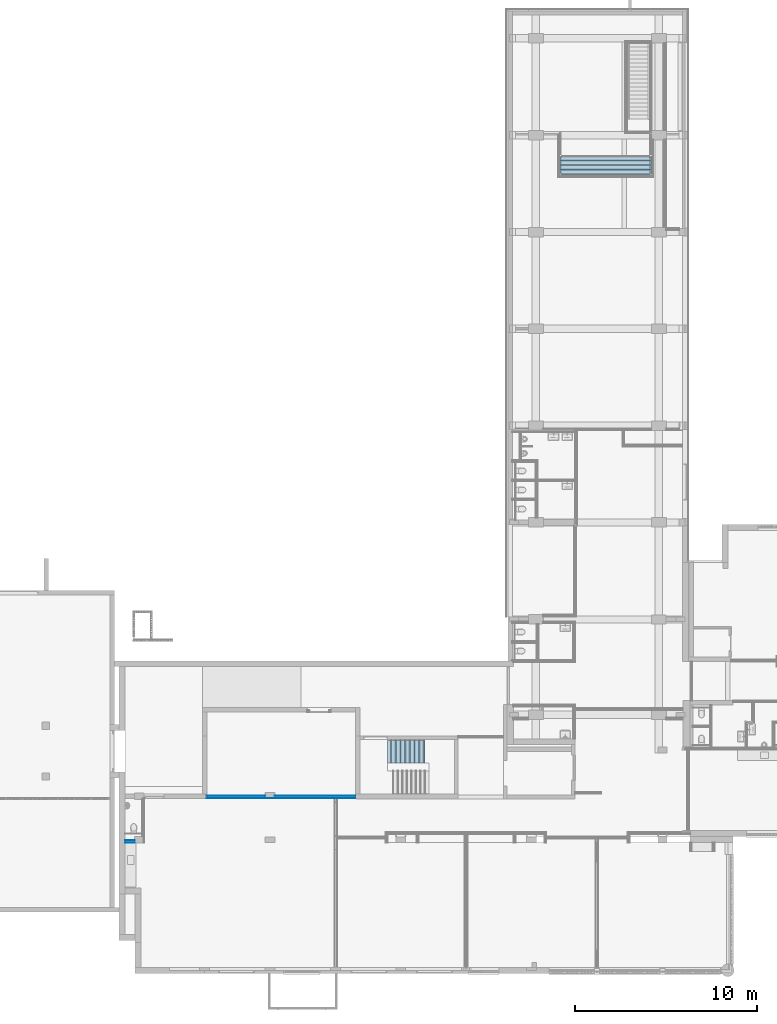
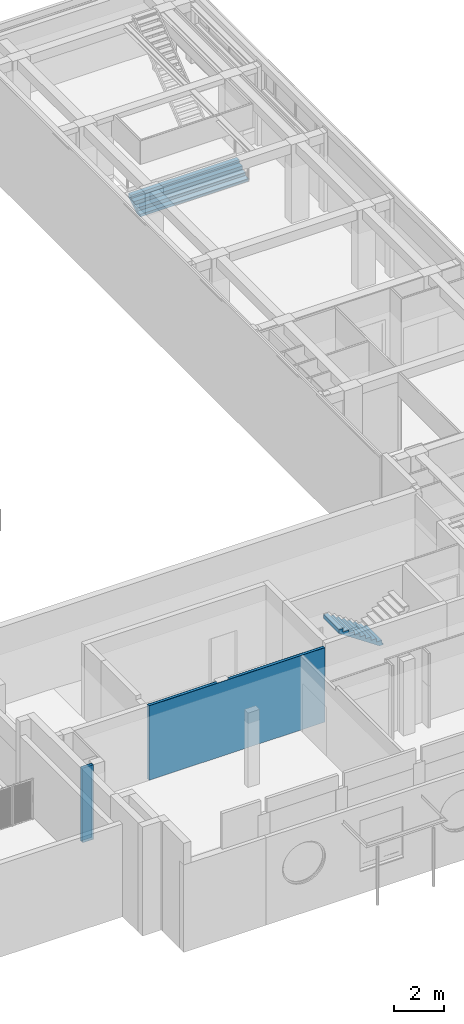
# One storey, part 99 of 135: 6 building element parts, 2 stair flights, 4 elements without a shape of their own.
"""IFC2X3 building model written with IfcOpenShell, lengths in millimetres."""

from ifc_helpers import new_model, entity, si_unit, converted_unit, derived_unit, money_unit, direction, frame, origin_with_axes, place, context, subcontext, project, spatial, faceted_brep, material, type_object, element, aggregate, save


model = new_model("IFC2X3")

# Units and contexts
model_context = context("Model", 3, precision=0.01, world=origin_with_axes(), true_north=direction((0.0, 1.0)))
body_context = subcontext(model_context, "Body", "Model", "MODEL_VIEW")
ifc_project = project(units=[si_unit("LENGTHUNIT", "METRE", prefix="MILLI"), si_unit("AREAUNIT", "SQUARE_METRE"), si_unit("VOLUMEUNIT", "CUBIC_METRE"), converted_unit("PLANEANGLEUNIT", "DEGREE", entity("IfcPlaneAngleMeasure", 0.0174532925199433), si_unit("PLANEANGLEUNIT", "RADIAN"), dimensions=[0, 0, 0, 0, 0, 0, 0]), money_unit("EUR"), converted_unit("TIMEUNIT", "Year", entity("IfcTimeMeasure", 31557600.0), si_unit("TIMEUNIT", "SECOND"), dimensions=[0, 0, 1, 0, 0, 0, 0]), si_unit("MASSUNIT", "GRAM", prefix="KILO"), si_unit("THERMODYNAMICTEMPERATUREUNIT", "DEGREE_CELSIUS"), si_unit("LUMINOUSINTENSITYUNIT", "LUMEN"), si_unit("ENERGYUNIT", "JOULE", prefix="MEGA"), derived_unit("THERMALCONDUCTANCEUNIT", [(si_unit("POWERUNIT", "WATT"), 1), (si_unit("LENGTHUNIT", "METRE"), -1), (si_unit("THERMODYNAMICTEMPERATUREUNIT", "KELVIN"), -1)]), derived_unit("SPECIFICHEATCAPACITYUNIT", [(si_unit("ENERGYUNIT", "JOULE"), 1), (si_unit("MASSUNIT", "GRAM", prefix="KILO"), -1), (si_unit("THERMODYNAMICTEMPERATUREUNIT", "KELVIN"), -1)]), derived_unit("MASSDENSITYUNIT", [(si_unit("MASSUNIT", "GRAM", prefix="KILO"), 1), (si_unit("VOLUMEUNIT", "CUBIC_METRE"), -1)])], contexts=[model_context])

# Site, building, storey
site_placement = place(None, origin_with_axes())
site = spatial("IfcSite", under=ifc_project, at=site_placement, Name="Site", CompositionType="ELEMENT")
building_placement = place(site_placement, origin_with_axes())
building = spatial("IfcBuilding", under=site, at=building_placement, Name="Naam gebouw", CompositionType="ELEMENT")
storey_placement = place(building_placement, origin_with_axes())
storey = spatial("IfcBuildingStorey", under=building, at=storey_placement, Name="Begane grond N", CompositionType="ELEMENT", Elevation=0.0)

# Stair, stair flight
stair_1_placement = place(storey_placement, frame((23160.00002619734, 46726.46897177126, 0.0), z_axis=(0.0, 0.0, 1.0), x_axis=(0.0, -1.0, 0.0)))
stair_1 = element("IfcStair", 1, at=stair_1_placement, inside=storey, Name="_Trap-x", ShapeType="NOTDEFINED")
ifc_material_1 = material(Name="Beton C")
stair_flight_type = type_object("IfcStairFlightType", Name="IfcStairFlight", PredefinedType="NOTDEFINED")
stair_flight_1_placement = place(stair_1_placement, origin_with_axes())
stair_flight_1 = element("IfcStairFlight", 2, at=stair_flight_1_placement, type_object=stair_flight_type, material=ifc_material_1, Name="_Trapsegment-x", context=body_context, shape_type="Brep", body=[
    faceted_brep([(-1174.776777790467, 5035.999973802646, 315.6774413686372), (-1258.110111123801, 5035.999973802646, 369.0107747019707), (-1341.443444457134, 5035.999973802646, 422.3441080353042), (-1341.443444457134, 5035.999973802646, 601.9999999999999), (-1149.543444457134, 5035.999973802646, 602.0), (-1149.543444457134, 5035.999973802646, 442.0), (-899.5434444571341, 5035.999973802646, 442.0), (-899.5434444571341, 5035.999973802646, 282.0), (-649.543444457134, 5035.999973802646, 282.0), (-649.543444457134, 5035.999973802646, 122.0), (-399.5434444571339, 5035.999973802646, 122.0), (-399.5434444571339, 5035.999973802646, 0.0), (-681.5307756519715, 5035.999973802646, 0.0), (-758.1101111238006, 5035.999973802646, 49.01077470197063), (-841.4434444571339, 5035.999973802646, 102.3441080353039), (-924.7767777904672, 5035.999973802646, 155.6774413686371), (-1008.110111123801, 5035.999973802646, 209.0107747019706), (-1091.443444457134, 5035.999973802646, 262.344108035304), (-1258.110111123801, 0.0, 369.0107747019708), (-1174.776777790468, 0.0, 315.6774413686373), (-1341.443444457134, 0.0, 422.3441080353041), (-1341.443444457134, 0.0, 601.9999999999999), (-1149.543444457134, 0.0, 602.0), (-1149.543444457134, 0.0, 442.0), (-899.5434444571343, 0.0, 442.0), (-899.5434444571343, 0.0, 282.0), (-649.5434444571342, 0.0, 282.0), (-649.5434444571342, 0.0, 122.0), (-399.5434444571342, 0.0, 122.0), (-399.5434444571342, 0.0, 0.0), (-681.5307756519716, 0.0, 0.0), (-758.1101111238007, 0.0, 49.01077470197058), (-841.4434444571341, 0.0, 102.3441080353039), (-924.7767777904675, 0.0, 155.6774413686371), (-1008.110111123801, 0.0, 209.0107747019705), (-1091.443444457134, 0.0, 262.3441080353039)], [[[0, 1, 2, 3, 4, 5, 6, 7, 8, 9, 10, 11, 12, 13, 14, 15, 16, 17]], [[18, 1, 0, 19]], [[20, 2, 1, 18]], [[3, 2, 20, 21]], [[3, 21, 22, 4]], [[22, 23, 5, 4]], [[23, 24, 6, 5]], [[24, 25, 7, 6]], [[25, 26, 8, 7]], [[26, 27, 9, 8]], [[27, 28, 10, 9]], [[29, 11, 10, 28]], [[12, 11, 29, 30]], [[31, 13, 12, 30]], [[32, 14, 13, 31]], [[33, 15, 14, 32]], [[34, 16, 15, 33]], [[35, 17, 16, 34]], [[19, 0, 17, 35]], [[30, 29, 28, 27, 26, 25, 24, 23, 22, 21, 20, 18, 19, 35, 34, 33, 32, 31]]]),
])
aggregate(stair_1, [stair_flight_1])

stair_2_placement = place(storey_placement, frame((15729.70019705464, 14715.92025998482, 1379.0), z_axis=(0.0, 0.0, 1.0), x_axis=(1.0, 0.0, 0.0)))
stair_2 = element("IfcStair", 3, at=stair_2_placement, inside=storey, Name="_Trap-x", ShapeType="NOTDEFINED")
stair_flight_2_placement = place(stair_2_placement, origin_with_axes())
stair_flight_2 = element("IfcStairFlight", 4, at=stair_flight_2_placement, type_object=stair_flight_type, material=ifc_material_1, Name="_Trapsegment-x", context=body_context, shape_type="Brep", body=[
    faceted_brep([(0.0, 0.0, -99.99999999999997), (0.0, 1240.0, -99.99999999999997), (0.0, 1240.0, -38.00000000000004), (0.0, 0.0, -38.00000000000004), (-180.8141737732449, 1240.0, -99.99999999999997), (-180.8141737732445, 0.0, -99.99999999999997), (-1887.599705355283, 1240.0, 1050.455850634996), (-1973.399691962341, 1240.0, 1108.289183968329), (-2059.1996785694, 1240.0, 1166.122517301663), (-2059.1996785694, 1240.0, 1350.0), (-1859.899718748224, 1240.0, 1350.0), (-1859.899718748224, 1240.0, 1176.5), (-1602.499758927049, 1240.0, 1176.5), (-1602.499758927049, 1240.0, 1003.0), (-1345.099799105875, 1240.0, 1003.0), (-1345.099799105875, 1240.0, 829.4999999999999), (-1087.6998392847, 1240.0, 829.4999999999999), (-1087.6998392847, 1240.0, 655.9999999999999), (-830.2998794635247, 1240.0, 655.9999999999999), (-830.2998794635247, 1240.0, 482.4999999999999), (-572.8999196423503, 1240.0, 482.4999999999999), (-572.8999196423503, 1240.0, 308.9999999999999), (-315.4999598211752, 1240.0, 308.9999999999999), (-315.4999598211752, 1240.0, 135.4999999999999), (-58.10000000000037, 1240.0, 135.4999999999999), (-58.10000000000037, 1240.0, -38.00000000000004), (-257.3999598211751, 1240.0, -48.37748269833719), (-343.1999464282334, 1240.0, 9.45585063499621), (-428.9999330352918, 1240.0, 67.28918396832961), (-514.7999196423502, 1240.0, 125.122517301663), (-600.5999062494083, 1240.0, 182.955850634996), (-686.3998928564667, 1240.0, 240.7891839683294), (-772.1998794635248, 1240.0, 298.6225173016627), (-857.9998660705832, 1240.0, 356.4558506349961), (-943.7998526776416, 1240.0, 414.2891839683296), (-1029.5998392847, 1240.0, 472.1225173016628), (-1115.399825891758, 1240.0, 529.955850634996), (-1201.199812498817, 1240.0, 587.7891839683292), (-1286.999799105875, 1240.0, 645.6225173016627), (-1372.799785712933, 1240.0, 703.4558506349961), (-1458.599772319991, 1240.0, 761.2891839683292), (-1544.39975892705, 1240.0, 819.1225173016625), (-1630.199745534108, 1240.0, 876.9558506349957), (-1715.999732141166, 1240.0, 934.7891839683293), (-1801.799718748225, 1240.0, 992.6225173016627), (-58.10000000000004, 0.0, -38.00000000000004), (-58.10000000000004, 0.0, 135.4999999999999), (-315.499959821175, 0.0, 135.4999999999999), (-315.499959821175, 0.0, 308.9999999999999), (-572.8999196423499, 0.0, 308.9999999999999), (-572.8999196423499, 0.0, 482.4999999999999), (-830.2998794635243, 0.0, 482.4999999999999), (-830.2998794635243, 0.0, 655.9999999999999), (-1087.699839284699, 0.0, 655.9999999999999), (-1087.699839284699, 0.0, 829.4999999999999), (-1345.099799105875, 0.0, 829.4999999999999), (-1345.099799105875, 0.0, 1003.0), (-1602.499758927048, 0.0, 1003.0), (-1602.499758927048, 0.0, 1176.5), (-1859.899718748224, 0.0, 1176.5), (-1859.899718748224, 0.0, 1350.0), (-2059.199678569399, 0.0, 1350.0), (-2059.199678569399, 0.0, 1166.122517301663), (-1973.399691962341, 0.0, 1108.289183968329), (-1887.599705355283, 0.0, 1050.455850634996), (-1801.799718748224, 0.0, 992.6225173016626), (-1715.999732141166, 0.0, 934.7891839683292), (-1630.199745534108, 0.0, 876.9558506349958), (-1544.399758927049, 0.0, 819.1225173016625), (-1458.599772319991, 0.0, 761.2891839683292), (-1372.799785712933, 0.0, 703.4558506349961), (-1286.999799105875, 0.0, 645.6225173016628), (-1201.199812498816, 0.0, 587.7891839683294), (-1115.399825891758, 0.0, 529.9558506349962), (-1029.5998392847, 0.0, 472.1225173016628), (-943.7998526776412, 0.0, 414.2891839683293), (-857.9998660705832, 0.0, 356.4558506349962), (-772.1998794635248, 0.0, 298.6225173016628), (-686.3998928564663, 0.0, 240.7891839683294), (-600.5999062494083, 0.0, 182.9558506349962), (-514.7999196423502, 0.0, 125.122517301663), (-428.9999330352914, 0.0, 67.2891839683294), (-343.1999464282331, 0.0, 9.45585063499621), (-257.3999598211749, 0.0, -48.37748269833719)], [[[0, 1, 2, 3]], [[4, 1, 0, 5]], [[6, 7, 8, 9, 10, 11, 12, 13, 14, 15, 16, 17, 18, 19, 20, 21, 22, 23, 24, 25, 2, 1, 4, 26, 27, 28, 29, 30, 31, 32, 33, 34, 35, 36, 37, 38, 39, 40, 41, 42, 43, 44]], [[25, 45, 3, 2]], [[5, 0, 3, 45, 46, 47, 48, 49, 50, 51, 52, 53, 54, 55, 56, 57, 58, 59, 60, 61, 62, 63, 64, 65, 66, 67, 68, 69, 70, 71, 72, 73, 74, 75, 76, 77, 78, 79, 80, 81, 82, 83]], [[83, 26, 4, 5]], [[63, 7, 6, 64]], [[62, 8, 7, 63]], [[9, 8, 62, 61]], [[9, 61, 60, 10]], [[60, 59, 11, 10]], [[59, 58, 12, 11]], [[58, 57, 13, 12]], [[57, 56, 14, 13]], [[56, 55, 15, 14]], [[55, 54, 16, 15]], [[54, 53, 17, 16]], [[53, 52, 18, 17]], [[52, 51, 19, 18]], [[51, 50, 20, 19]], [[50, 49, 21, 20]], [[49, 48, 22, 21]], [[48, 47, 23, 22]], [[47, 46, 24, 23]], [[46, 45, 25, 24]], [[82, 27, 26, 83]], [[81, 28, 27, 82]], [[80, 29, 28, 81]], [[79, 30, 29, 80]], [[78, 31, 30, 79]], [[77, 32, 31, 78]], [[76, 33, 32, 77]], [[75, 34, 33, 76]], [[74, 35, 34, 75]], [[73, 36, 35, 74]], [[72, 37, 36, 73]], [[71, 38, 37, 72]], [[70, 39, 38, 71]], [[69, 40, 39, 70]], [[68, 41, 40, 69]], [[67, 42, 41, 68]], [[66, 43, 42, 67]], [[65, 44, 43, 66]], [[64, 6, 44, 65]]]),
])
aggregate(stair_2, [stair_flight_2])

# Wall, building element parts
wall_type = type_object("IfcWallType", Name="Metalstud iso 150 150", PredefinedType="NOTDEFINED")
wall_1_placement = place(storey_placement, frame((3731.100528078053, 12920.91242846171, -100.0), z_axis=(0.0, 0.0, 1.0), x_axis=(1.0, 0.0, 0.0)))
wall_1 = element("IfcWall", 5, at=wall_1_placement, inside=storey, type_object=wall_type, Name="_Wand-x")
ifc_material_2 = material(Name="Gipsplaat")
building_element_part_1_placement = place(wall_1_placement, origin_with_axes())
building_element_part_1 = element("IfcBuildingElementPart", 6, at=building_element_part_1_placement, material=ifc_material_2, Name="Gipsplaat", context=body_context, shape_type="Brep", body=[
    faceted_brep([(3198.899471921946, -12.49999999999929, 3750.0), (3198.899471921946, 0.0, 3750.0), (3.178945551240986e-06, 0.0, 3750.0), (3.01798630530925e-06, -12.49999999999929, 3750.0), (3198.899471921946, 0.0, 100.0), (3198.899471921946, -12.49999999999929, 100.0), (3.178945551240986e-06, 0.0, 100.0), (8.04782906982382e-08, -12.49999999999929, 100.0)], [[[0, 1, 2, 3]], [[4, 1, 0, 5]], [[1, 4, 6, 2]], [[7, 3, 2, 6]], [[5, 0, 3, 7]], [[4, 5, 7, 6]]]),
    faceted_brep([(3738.899471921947, 0.0, 100.0), (3738.899471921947, 0.0, 3750.0), (8174.399990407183, 0.0, 3750.0), (8174.399990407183, 0.0, 100.0), (3738.899471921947, -12.49999999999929, 3750.0), (3738.899471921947, -12.49999999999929, 100.0), (8174.399990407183, -12.49999999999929, 3750.0), (8174.399990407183, -12.49999999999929, 100.0)], [[[0, 1, 2, 3]], [[4, 1, 0, 5]], [[1, 4, 6, 2]], [[3, 2, 6, 7]], [[5, 0, 3, 7]], [[4, 5, 7, 6]]]),
])
ifc_material_3 = material(Name="Isolatie - Steenwol LSW")
building_element_part_2_placement = place(wall_1_placement, origin_with_axes())
building_element_part_2 = element("IfcBuildingElementPart", 7, at=building_element_part_2_placement, material=ifc_material_3, Name="Isolatie - Steenwol LSW", context=body_context, shape_type="Brep", body=[
    faceted_brep([(3738.899471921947, -12.49999999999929, 100.0), (3738.899471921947, -12.49999999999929, 3750.0), (8174.399990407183, -12.49999999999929, 3750.0), (8174.399990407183, -12.49999999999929, 100.0), (3738.899471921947, -130.0560710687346, 3750.0), (3738.899471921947, -130.0560710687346, 100.0), (3198.899471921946, -130.0560710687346, 3750.0), (3198.899471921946, -12.49999999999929, 3750.0), (3.01798630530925e-06, -12.49999999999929, 3750.0), (3.01798630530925e-06, -137.4999999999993, 3750.0), (8174.399990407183, -137.4999999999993, 3750.0), (8174.399990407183, -137.4999999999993, 100.0), (8.04782906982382e-08, -137.4999999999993, 100.0), (8.04782906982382e-08, -12.49999999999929, 100.0), (3198.899471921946, -12.49999999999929, 100.0), (3198.899471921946, -130.0560710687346, 100.0)], [[[0, 1, 2, 3]], [[4, 1, 0, 5]], [[6, 7, 8, 9, 10, 2, 1, 4]], [[3, 2, 10, 11]], [[5, 0, 3, 11, 12, 13, 14, 15]], [[6, 4, 5, 15]], [[14, 7, 6, 15]], [[7, 14, 13, 8]], [[12, 9, 8, 13]], [[11, 10, 9, 12]]]),
])
building_element_part_3_placement = place(wall_1_placement, origin_with_axes())
building_element_part_3 = element("IfcBuildingElementPart", 8, at=building_element_part_3_placement, material=ifc_material_2, Name="Gipsplaat", context=body_context, shape_type="Brep", body=[
    faceted_brep([(3.01798630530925e-06, -137.4999999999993, 3750.0), (8174.399990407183, -137.4999999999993, 3750.0), (8174.399990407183, -137.4999999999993, 100.0), (8.04782906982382e-08, -137.4999999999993, 100.0), (8174.399990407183, -149.9999999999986, 3750.0), (3.178945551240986e-06, -149.9999999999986, 3750.0), (8174.399990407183, -149.9999999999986, 100.0), (3.178945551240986e-06, -149.9999999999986, 100.0)], [[[0, 1, 2, 3]], [[4, 1, 0, 5]], [[1, 4, 6, 2]], [[3, 2, 6, 7]], [[5, 0, 3, 7]], [[4, 5, 7, 6]]]),
])
aggregate(wall_1, [building_element_part_1, building_element_part_2, building_element_part_3])

wall_2_placement = place(storey_placement, frame((-250.0000000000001, 10318.41242510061, -100.0), z_axis=(0.0, 0.0, 1.0), x_axis=(-1.0, 0.0, 0.0)))
wall_2 = element("IfcWall", 9, at=wall_2_placement, inside=storey, type_object=wall_type, Name="_Wand-x")
building_element_part_4_placement = place(wall_2_placement, origin_with_axes())
building_element_part_4 = element("IfcBuildingElementPart", 10, at=building_element_part_4_placement, material=ifc_material_2, Name="Gipsplaat", context=body_context, shape_type="Brep", body=[
    faceted_brep([(520.038814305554, -12.50000000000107, 100.0), (520.038814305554, -12.50000000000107, 3750.0), (0.0, -12.50000000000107, 3750.0), (0.0, -12.50000000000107, 100.0), (520.038814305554, 0.0, 100.0), (520.038814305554, 0.0, 3750.0), (0.0, 0.0, 3750.0), (0.0, 0.0, 100.0)], [[[0, 1, 2, 3]], [[4, 5, 1, 0]], [[5, 6, 2, 1]], [[3, 2, 6, 7]], [[4, 0, 3, 7]], [[7, 6, 5, 4]]]),
])
building_element_part_5_placement = place(wall_2_placement, origin_with_axes())
building_element_part_5 = element("IfcBuildingElementPart", 11, at=building_element_part_5_placement, material=ifc_material_3, Name="Isolatie - Steenwol LSW", context=body_context, shape_type="Brep", body=[
    faceted_brep([(520.038814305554, -137.5000000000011, 100.0), (520.038814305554, -137.5000000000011, 3750.0), (0.0, -137.5000000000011, 3750.0), (0.0, -137.5000000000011, 100.0), (520.038814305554, -12.50000000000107, 100.0), (520.038814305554, -12.50000000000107, 3750.0), (0.0, -12.50000000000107, 3750.0), (0.0, -12.50000000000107, 100.0)], [[[0, 1, 2, 3]], [[4, 5, 1, 0]], [[5, 6, 2, 1]], [[3, 2, 6, 7]], [[4, 0, 3, 7]], [[7, 6, 5, 4]]]),
])
building_element_part_6_placement = place(wall_2_placement, origin_with_axes())
building_element_part_6 = element("IfcBuildingElementPart", 12, at=building_element_part_6_placement, material=ifc_material_2, Name="Gipsplaat", context=body_context, shape_type="Brep", body=[
    faceted_brep([(520.038814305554, -150.0000000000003, 100.0), (520.038814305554, -150.0000000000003, 3750.0), (0.0, -150.0000000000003, 3750.0), (0.0, -150.0000000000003, 100.0), (520.038814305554, -137.5000000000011, 100.0), (520.038814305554, -137.5000000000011, 3750.0), (0.0, -137.5000000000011, 3750.0), (0.0, -137.5000000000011, 100.0)], [[[0, 1, 2, 3]], [[4, 5, 1, 0]], [[5, 6, 2, 1]], [[3, 2, 6, 7]], [[4, 0, 3, 7]], [[7, 6, 5, 4]]]),
])
aggregate(wall_2, [building_element_part_4, building_element_part_5, building_element_part_6])

save(model, "model.ifc")
